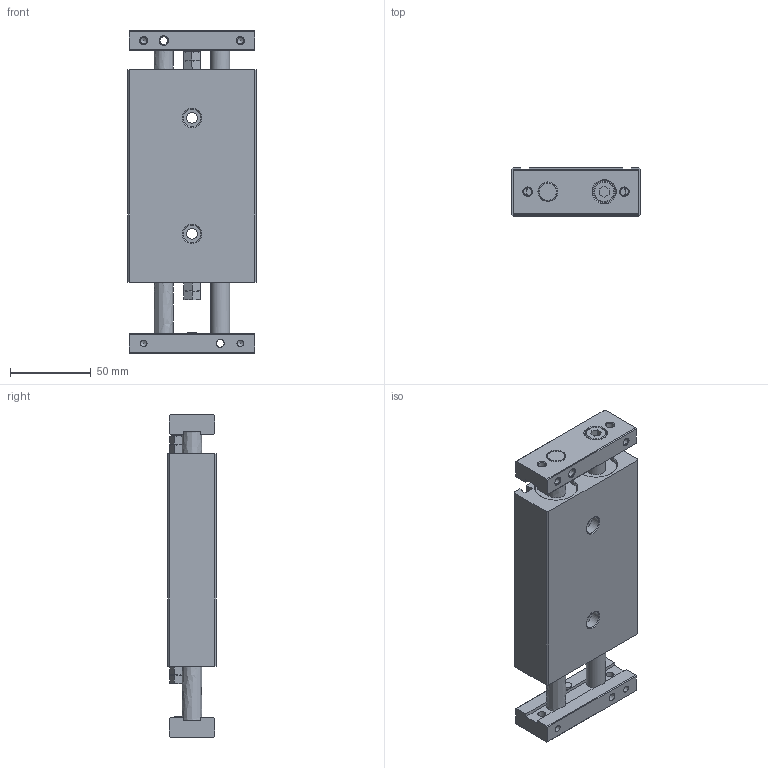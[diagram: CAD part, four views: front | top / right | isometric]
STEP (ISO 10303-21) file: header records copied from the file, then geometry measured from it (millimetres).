
FILE_DESCRIPTION((''),'2;1');
FILE_NAME('I:\3D電子目錄\氣缸\STX\STX\STX25\STX25x20.stp','2007-10-02T08:50:41',('Administrator'),(''),'Autodesk Inventor 11','Autodesk Inventor 11','');
FILE_SCHEMA(('AUTOMOTIVE_DESIGN { 1 0 10303 214 1 1 1 1 }'));
Length unit declared in the file: millimetre
Products named in the file (1): STX25
Bounding box: 80 x 30 x 200 mm (x, y, z)
Volume: 355188.5 mm3; surface area: 63235.4 mm2
Topology: 1 solids, 1 shells, 274 faces, 653 edges, 406 vertices
Faces by surface type: plane 127, cone 75, bspline 46, cylinder 22, torus 4
Full cylindrical faces by diameter (mm): 4.134 x4, 6 x2, 11 x2, 12 x4, 12.2 x2, 13 x2, 14 x2, 26 x2, 27.4 x2
Entity records: 8035 total; most frequent: CARTESIAN_POINT 2555, ORIENTED_EDGE 1058, DIRECTION 1056, EDGE_CURVE 529, EDGE_LOOP 420, AXIS2_PLACEMENT_3D 402, VERTEX_POINT 373, FACE_OUTER_BOUND 274
